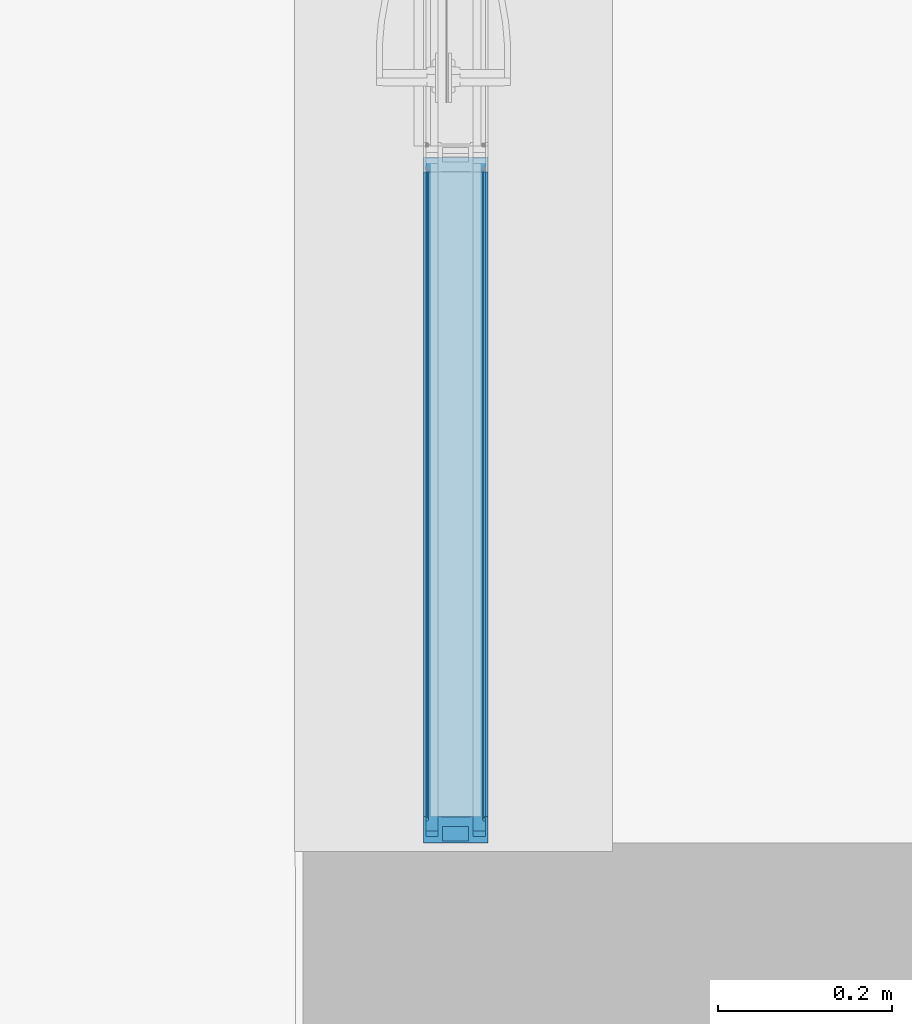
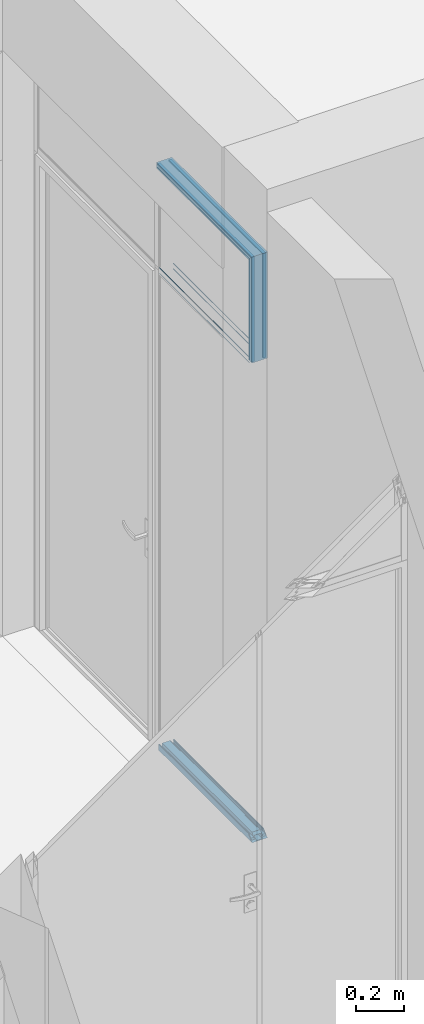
# One storey, part 71 of 89: 7 building element parts, 5 elements without a shape of their own.
"""IFC2X3 building model written with IfcOpenShell, lengths in millimetres."""

from ifc_helpers import new_model, entity, si_unit, converted_unit, derived_unit, money_unit, direction, frame, origin_with_axes, place, context, subcontext, project, spatial, faceted_brep, material, type_object, element, aggregate, save


model = new_model("IFC2X3")

# Units and contexts
model_context = context("Model", 3, precision=0.01, world=origin_with_axes(), true_north=direction((0.0, 1.0)))
body_context = subcontext(model_context, "Body", "Model", "MODEL_VIEW")
ifc_project = project(units=[si_unit("LENGTHUNIT", "METRE", prefix="MILLI"), si_unit("AREAUNIT", "SQUARE_METRE"), si_unit("VOLUMEUNIT", "CUBIC_METRE"), converted_unit("PLANEANGLEUNIT", "DEGREE", entity("IfcPlaneAngleMeasure", 0.0174532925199), si_unit("PLANEANGLEUNIT", "RADIAN"), dimensions=[0, 0, 0, 0, 0, 0, 0]), si_unit("SOLIDANGLEUNIT", "STERADIAN"), money_unit("EUR"), converted_unit("TIMEUNIT", "Year", entity("IfcTimeMeasure", 31556926.0), si_unit("TIMEUNIT", "SECOND"), dimensions=[0, 0, 1, 0, 0, 0, 0]), si_unit("MASSUNIT", "GRAM", prefix="KILO"), si_unit("THERMODYNAMICTEMPERATUREUNIT", "DEGREE_CELSIUS"), si_unit("LUMINOUSINTENSITYUNIT", "LUMEN"), si_unit("ENERGYUNIT", "JOULE", prefix="MEGA"), derived_unit("THERMALCONDUCTANCEUNIT", [(si_unit("POWERUNIT", "WATT"), 1), (si_unit("LENGTHUNIT", "METRE"), -1), (si_unit("THERMODYNAMICTEMPERATUREUNIT", "KELVIN"), -1)]), derived_unit("SPECIFICHEATCAPACITYUNIT", [(si_unit("ENERGYUNIT", "JOULE"), 1), (si_unit("MASSUNIT", "GRAM", prefix="KILO"), -1), (si_unit("THERMODYNAMICTEMPERATUREUNIT", "KELVIN"), -1)]), derived_unit("MASSDENSITYUNIT", [(si_unit("MASSUNIT", "GRAM", prefix="KILO"), 1), (si_unit("VOLUMEUNIT", "CUBIC_METRE"), -1)])], contexts=[model_context])

# Site, building, storey
site_placement = place(None, origin_with_axes())
site = spatial("IfcSite", under=ifc_project, at=site_placement, Name="Puškini 31, Narva", CompositionType="ELEMENT")
building_placement = place(site_placement, origin_with_axes())
building = spatial("IfcBuilding", under=site, at=building_placement, Name="Narva Riigigümnaasium", CompositionType="ELEMENT")
storey_placement = place(building_placement, frame((0.0, 0.0, -3300.0), z_axis=(0.0, 0.0, 1.0), x_axis=(1.0, 0.0, 0.0)))
storey = spatial("IfcBuildingStorey", under=building, at=storey_placement, Name="1.korrus -3.3", CompositionType="ELEMENT", Elevation=-3300.0)

# Curtain wall, members, building element parts
curtain_wall_type = type_object("IfcCurtainWallType", Name="Curtain Wall Type", PredefinedType="NOTDEFINED")
curtain_wall_placement = place(storey_placement, frame((47675.0000001, 242632.20006, -3.78005973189e-05), z_axis=(0.0, 0.0, 1.0), x_axis=(1.0, 0.0, 0.0)))
curtain_wall = element("IfcCurtainWall", 1, at=curtain_wall_placement, inside=storey, type_object=curtain_wall_type, Name="G-SKLF-10")
member_type_1 = type_object("IfcMemberType", Name="30 x 37", PredefinedType="MULLION")
member_1_placement = place(curtain_wall_placement, frame((0.0, -472.200003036, 2949.99999283), z_axis=(0.0, 1.0, 0.0), x_axis=(0.0, 0.0, -1.0)))
member_1 = element("IfcMember", 2, at=member_1_placement, type_object=member_type_1, Name="G-SKLF-10-raam", ObjectType="MULLION")
ifc_material_1 = material(Name="Klaasvill")
building_element_part_1_placement = place(member_1_placement, origin_with_axes())
building_element_part_1 = element("IfcBuildingElementPart", 3, at=building_element_part_1_placement, material=ifc_material_1, Name="Klaasvill", context=body_context, shape_type="Brep", body=[
    faceted_brep([(13.8499999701, 20.000000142, 13.8499999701), (13.8499999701, 20.000000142, 787.00000506), (7.49999990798, 20.000000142, 787.00000506), (7.49999990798, 20.000000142, 7.49999990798), (13.8499999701, 34.0161444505, 13.8499999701), (13.8499999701, 34.0161444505, 787.00000506), (7.49999990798, 34.0161444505, 787.00000506), (7.49999990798, 34.0161444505, 7.49999990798)], [[[0, 1, 2, 3]], [[4, 5, 1, 0]], [[2, 1, 5, 6]], [[3, 2, 6, 7]], [[3, 7, 4, 0]], [[7, 6, 5, 4]]]),
    faceted_brep([(25.004489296, 32.0307503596, 25.004489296), (25.004489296, 32.0307503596, 787.00000506), (24.987414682, 34.0161444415, 787.00000506), (24.987414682, 34.0161444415, 24.987414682), (25.742237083, 31.2930025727, 25.742237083), (25.742237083, 31.2930025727, 787.00000506), (26.7500193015, 31.0229681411, 787.00000506), (27.75780152, 31.2930025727, 787.00000506), (28.4955493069, 32.0307503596, 787.00000506), (28.7655837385, 33.0385325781, 787.00000506), (28.5126239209, 34.0161444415, 787.00000506), (28.5126239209, 34.0161444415, 28.5126239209), (28.7655837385, 33.0385325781, 28.7655837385), (28.4955493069, 32.0307503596, 28.4955493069), (27.75780152, 31.2930025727, 27.75780152), (26.7500193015, 31.0229681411, 26.7500193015)], [[[0, 1, 2, 3]], [[4, 5, 1, 0]], [[2, 1, 5, 6, 7, 8, 9, 10]], [[3, 2, 10, 11]], [[3, 11, 12, 13, 14, 15, 4, 0]], [[15, 6, 5, 4]], [[14, 7, 6, 15]], [[13, 8, 7, 14]], [[12, 9, 8, 13]], [[11, 10, 9, 12]]]),
    faceted_brep([(7.49999990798, -34.0161445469, 7.49999990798), (7.49999990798, -34.0161445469, 787.00000506), (7.49999990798, -19.9999997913, 787.00000506), (7.49999990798, -19.9999997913, 7.49999990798), (13.8499999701, -34.0161445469, 13.8499999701), (13.8499999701, -34.0161445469, 787.00000506), (13.8499999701, -19.9999997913, 787.00000506), (13.8499999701, -19.9999997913, 13.8499999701)], [[[0, 1, 2, 3]], [[4, 5, 1, 0]], [[2, 1, 5, 6]], [[3, 2, 6, 7]], [[3, 7, 4, 0]], [[7, 6, 5, 4]]]),
    faceted_brep([(24.987414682, -34.0161444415, 24.987414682), (24.987414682, -34.0161444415, 787.00000506), (25.004489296, -32.0307503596, 787.00000506), (25.004489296, -32.0307503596, 25.004489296), (28.5126239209, -34.0161444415, 28.5126239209), (28.5126239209, -34.0161444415, 787.00000506), (28.7655837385, -33.0385325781, 787.00000506), (28.4955493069, -32.0307503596, 787.00000506), (27.75780152, -31.2930025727, 787.00000506), (26.7500193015, -31.0229681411, 787.00000506), (25.742237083, -31.2930025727, 787.00000506), (25.742237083, -31.2930025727, 25.742237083), (26.7500193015, -31.0229681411, 26.7500193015), (27.75780152, -31.2930025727, 27.75780152), (28.4955493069, -32.0307503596, 28.4955493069), (28.7655837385, -33.0385325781, 28.7655837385)], [[[0, 1, 2, 3]], [[4, 5, 1, 0]], [[2, 1, 5, 6, 7, 8, 9, 10]], [[3, 2, 10, 11]], [[3, 11, 12, 13, 14, 15, 4, 0]], [[15, 6, 5, 4]], [[14, 7, 6, 15]], [[13, 8, 7, 14]], [[12, 9, 8, 13]], [[11, 10, 9, 12]]]),
])
ifc_material_2 = material(Name="Teras RAL7012")
building_element_part_2_placement = place(member_1_placement, origin_with_axes())
building_element_part_2 = element("IfcBuildingElementPart", 4, at=building_element_part_2_placement, material=ifc_material_2, Name="Teras RAL7012", context=body_context, shape_type="Brep", body=[
    faceted_brep([(29.5999996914, -17.0000000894, 29.5999996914), (29.5999996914, -17.0000000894, 787.00000506), (0.0, -17.0000000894, 787.00000506), (0.0, -17.0000000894, 0.0), (29.5999996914, 17.0000000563, 29.5999996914), (29.5999996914, 17.0000000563, 787.00000506), (0.0, 17.0000000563, 787.00000506), (1.9999999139, 15.0000001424, 787.00000506), (18.7999996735, 15.0000001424, 787.00000506), (18.7999996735, -15.0000001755, 787.00000506), (1.9999999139, -15.0000001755, 787.00000506), (0.0, 17.0000000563, 0.0), (1.9999999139, 15.0000001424, 1.9999999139), (1.9999999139, -15.0000001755, 1.9999999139), (18.7999996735, -15.0000001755, 18.7999996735), (18.7999996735, 15.0000001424, 18.7999996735)], [[[0, 1, 2, 3]], [[4, 5, 1, 0]], [[2, 1, 5, 6], [7, 8, 9, 10]], [[3, 2, 6, 11]], [[3, 11, 4, 0], [12, 13, 14, 15]], [[11, 6, 5, 4]], [[15, 8, 7, 12]], [[14, 9, 8, 15]], [[13, 10, 9, 14]], [[12, 7, 10, 13]]]),
    faceted_brep([(29.5999996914, 17.0000000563, 29.5999996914), (29.5999996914, 17.0000000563, 787.00000506), (0.0, 17.0, 787.00000506), (0.0, 17.0, 0.0), (30.0000193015, 17.0, 30.0000193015), (30.0000193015, 17.0, 787.00000506), (30.0000193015, 20.0, 787.00000506), (13.8499999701, 20.000000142, 787.00000506), (7.49999999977, 20.0, 787.00000506), (7.49999999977, 34.0161444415, 787.00000506), (13.8499999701, 34.0161444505, 787.00000506), (24.987414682, 34.0161444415, 787.00000506), (28.5126239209, 34.0161444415, 787.00000506), (30.0000193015, 34.0161444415, 787.00000506), (30.0000193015, 37.0, 787.00000506), (0.0, 37.0, 787.00000506), (0.0, 37.0, 0.0), (30.0000193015, 37.0, 30.0000193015), (30.0000193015, 34.0161444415, 30.0000193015), (28.5126239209, 34.0161444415, 28.5126239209), (24.987414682, 34.0161444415, 24.987414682), (13.8499999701, 34.0161444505, 13.8499999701), (7.49999999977, 34.0161444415, 7.49999999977), (7.49999999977, 20.0, 7.49999999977), (13.8499999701, 20.000000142, 13.8499999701), (30.0000193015, 20.0, 30.0000193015)], [[[0, 1, 2, 3]], [[4, 5, 1, 0]], [[2, 1, 5, 6, 7, 8, 9, 10, 11, 12, 13, 14, 15]], [[3, 2, 15, 16]], [[3, 16, 17, 18, 19, 20, 21, 22, 23, 24, 25, 4, 0]], [[25, 6, 5, 4]], [[24, 7, 6, 25]], [[23, 8, 7, 24]], [[22, 9, 8, 23]], [[21, 10, 9, 22]], [[20, 11, 10, 21]], [[19, 12, 11, 20]], [[18, 13, 12, 19]], [[17, 14, 13, 18]], [[16, 15, 14, 17]]]),
    faceted_brep([(0.0, -37.0, 0.0), (0.0, -37.0, 787.00000506), (0.0, -17.0, 787.00000506), (0.0, -17.0, 0.0), (30.0000193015, -37.0, 30.0000193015), (30.0000193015, -37.0, 787.00000506), (30.0000193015, -34.0161444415, 787.00000506), (28.5126239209, -34.0161444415, 787.00000506), (24.987414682, -34.0161444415, 787.00000506), (13.8499999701, -34.0161445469, 787.00000506), (7.49999999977, -34.0161444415, 787.00000506), (7.49999999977, -20.0, 787.00000506), (13.8499999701, -19.9999997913, 787.00000506), (30.0000193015, -20.0, 787.00000506), (30.0000193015, -17.0, 787.00000506), (29.5999996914, -17.0000000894, 787.00000506), (29.5999996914, -17.0000000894, 29.5999996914), (30.0000193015, -17.0, 30.0000193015), (30.0000193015, -20.0, 30.0000193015), (13.8499999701, -19.9999997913, 13.8499999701), (7.49999999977, -20.0, 7.49999999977), (7.49999999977, -34.0161444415, 7.49999999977), (13.8499999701, -34.0161445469, 13.8499999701), (24.987414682, -34.0161444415, 24.987414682), (28.5126239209, -34.0161444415, 28.5126239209), (30.0000193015, -34.0161444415, 30.0000193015)], [[[0, 1, 2, 3]], [[4, 5, 1, 0]], [[2, 1, 5, 6, 7, 8, 9, 10, 11, 12, 13, 14, 15]], [[3, 2, 15, 16]], [[3, 16, 17, 18, 19, 20, 21, 22, 23, 24, 25, 4, 0]], [[25, 6, 5, 4]], [[24, 7, 6, 25]], [[23, 8, 7, 24]], [[22, 9, 8, 23]], [[21, 10, 9, 22]], [[20, 11, 10, 21]], [[19, 12, 11, 20]], [[18, 13, 12, 19]], [[17, 14, 13, 18]], [[16, 15, 14, 17]]]),
])
aggregate(member_1, [building_element_part_1, building_element_part_2])
member_2_placement = place(curtain_wall_placement, frame((0.0, -472.200003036, 2415.00003228), z_axis=(0.0, 0.0, 1.0), x_axis=(0.0, 1.0, 0.0)))
member_2 = element("IfcMember", 5, at=member_2_placement, type_object=member_type_1, Name="G-SKLF-10-raam", ObjectType="MULLION")
building_element_part_3_placement = place(member_2_placement, origin_with_axes())
building_element_part_3 = element("IfcBuildingElementPart", 6, at=building_element_part_3_placement, material=ifc_material_1, Name="Klaasvill", context=body_context, shape_type="Brep", body=[
    faceted_brep([(7.49999990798, 20.000000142, 0.0), (13.8499999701, 20.000000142, 0.0), (13.8499999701, 20.000000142, 521.149960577), (7.49999990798, 20.000000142, 527.499960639), (7.49999990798, 34.0161444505, 0.0), (13.8499999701, 34.0161444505, 0.0), (13.8499999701, 34.0161444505, 521.149960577), (7.49999990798, 34.0161444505, 527.499960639)], [[[0, 1, 2, 3]], [[0, 4, 5, 1]], [[1, 5, 6, 2]], [[3, 2, 6, 7]], [[4, 0, 3, 7]], [[5, 4, 7, 6]]]),
    faceted_brep([(24.987414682, 34.0161444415, 0.0), (25.004489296, 32.0307503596, 0.0), (25.004489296, 32.0307503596, 509.995471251), (24.987414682, 34.0161444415, 510.012545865), (28.5126239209, 34.0161444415, 0.0), (28.7655837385, 33.0385325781, 0.0), (28.4955493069, 32.0307503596, 0.0), (27.75780152, 31.2930025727, 0.0), (26.7500193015, 31.0229681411, 0.0), (25.742237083, 31.2930025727, 0.0), (25.742237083, 31.2930025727, 509.257723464), (26.7500193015, 31.0229681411, 508.249941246), (27.75780152, 31.2930025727, 507.242159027), (28.4955493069, 32.0307503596, 506.50441124), (28.7655837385, 33.0385325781, 506.234376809), (28.5126239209, 34.0161444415, 506.487336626)], [[[0, 1, 2, 3]], [[0, 4, 5, 6, 7, 8, 9, 1]], [[1, 9, 10, 2]], [[3, 2, 10, 11, 12, 13, 14, 15]], [[4, 0, 3, 15]], [[5, 4, 15, 14]], [[6, 5, 14, 13]], [[7, 6, 13, 12]], [[8, 7, 12, 11]], [[9, 8, 11, 10]]]),
    faceted_brep([(7.49999990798, -19.9999997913, 0.0), (7.49999990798, -34.0161445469, 0.0), (7.49999990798, -34.0161445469, 527.499960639), (7.49999990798, -19.9999997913, 527.499960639), (13.8499999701, -19.9999997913, 0.0), (13.8499999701, -34.0161445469, 0.0), (13.8499999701, -34.0161445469, 521.149960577), (13.8499999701, -19.9999997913, 521.149960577)], [[[0, 1, 2, 3]], [[0, 4, 5, 1]], [[1, 5, 6, 2]], [[3, 2, 6, 7]], [[4, 0, 3, 7]], [[5, 4, 7, 6]]]),
    faceted_brep([(25.004489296, -32.0307503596, 0.0), (24.987414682, -34.0161444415, 0.0), (24.987414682, -34.0161444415, 510.012545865), (25.004489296, -32.0307503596, 509.995471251), (25.742237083, -31.2930025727, 0.0), (26.7500193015, -31.0229681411, 0.0), (27.75780152, -31.2930025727, 0.0), (28.4955493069, -32.0307503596, 0.0), (28.7655837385, -33.0385325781, 0.0), (28.5126239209, -34.0161444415, 0.0), (28.5126239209, -34.0161444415, 506.487336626), (28.7655837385, -33.0385325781, 506.234376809), (28.4955493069, -32.0307503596, 506.50441124), (27.75780152, -31.2930025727, 507.242159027), (26.7500193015, -31.0229681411, 508.249941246), (25.742237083, -31.2930025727, 509.257723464)], [[[0, 1, 2, 3]], [[0, 4, 5, 6, 7, 8, 9, 1]], [[1, 9, 10, 2]], [[3, 2, 10, 11, 12, 13, 14, 15]], [[4, 0, 3, 15]], [[5, 4, 15, 14]], [[6, 5, 14, 13]], [[7, 6, 13, 12]], [[8, 7, 12, 11]], [[9, 8, 11, 10]]]),
])
building_element_part_4_placement = place(member_2_placement, origin_with_axes())
building_element_part_4 = element("IfcBuildingElementPart", 7, at=building_element_part_4_placement, material=ifc_material_2, Name="Teras RAL7012", context=body_context, shape_type="Brep", body=[
    faceted_brep([(0.0, -17.0000000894, 0.0), (29.5999996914, -17.0000000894, 0.0), (29.5999996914, -17.0000000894, 505.399960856), (0.0, -17.0000000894, 534.999960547), (0.0, 17.0000000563, 0.0), (29.5999996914, 17.0000000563, 0.0), (1.9999999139, 15.0000001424, 0.0), (1.9999999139, -15.0000001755, 0.0), (18.7999996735, -15.0000001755, 0.0), (18.7999996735, 15.0000001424, 0.0), (29.5999996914, 17.0000000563, 505.399960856), (0.0, 17.0000000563, 534.999960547), (1.9999999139, 15.0000001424, 532.999960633), (18.7999996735, 15.0000001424, 516.199960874), (18.7999996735, -15.0000001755, 516.199960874), (1.9999999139, -15.0000001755, 532.999960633)], [[[0, 1, 2, 3]], [[0, 4, 5, 1], [6, 7, 8, 9]], [[1, 5, 10, 2]], [[3, 2, 10, 11], [12, 13, 14, 15]], [[4, 0, 3, 11]], [[5, 4, 11, 10]], [[7, 6, 12, 15]], [[8, 7, 15, 14]], [[9, 8, 14, 13]], [[6, 9, 13, 12]]]),
    faceted_brep([(0.0, 17.0, 0.0), (29.5999996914, 17.0000000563, 0.0), (29.5999996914, 17.0000000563, 505.399960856), (0.0, 17.0, 534.999960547), (0.0, 37.0, 0.0), (30.0000193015, 37.0, 0.0), (30.0000193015, 34.0161444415, 0.0), (28.5126239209, 34.0161444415, 0.0), (24.987414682, 34.0161444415, 0.0), (13.8499999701, 34.0161444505, 0.0), (7.49999999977, 34.0161444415, 0.0), (7.49999999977, 20.0, 0.0), (13.8499999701, 20.000000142, 0.0), (30.0000193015, 20.0, 0.0), (30.0000193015, 17.0, 0.0), (30.0000193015, 17.0, 504.999941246), (30.0000193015, 20.0, 504.999941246), (13.8499999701, 20.000000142, 521.149960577), (7.49999999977, 20.0, 527.499960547), (7.49999999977, 34.0161444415, 527.499960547), (13.8499999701, 34.0161444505, 521.149960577), (24.987414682, 34.0161444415, 510.012545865), (28.5126239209, 34.0161444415, 506.487336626), (30.0000193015, 34.0161444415, 504.999941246), (30.0000193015, 37.0, 504.999941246), (0.0, 37.0, 534.999960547)], [[[0, 1, 2, 3]], [[0, 4, 5, 6, 7, 8, 9, 10, 11, 12, 13, 14, 1]], [[1, 14, 15, 2]], [[3, 2, 15, 16, 17, 18, 19, 20, 21, 22, 23, 24, 25]], [[4, 0, 3, 25]], [[5, 4, 25, 24]], [[6, 5, 24, 23]], [[7, 6, 23, 22]], [[8, 7, 22, 21]], [[9, 8, 21, 20]], [[10, 9, 20, 19]], [[11, 10, 19, 18]], [[12, 11, 18, 17]], [[13, 12, 17, 16]], [[14, 13, 16, 15]]]),
    faceted_brep([(0.0, -17.0, 0.0), (0.0, -37.0, 0.0), (0.0, -37.0, 534.999960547), (0.0, -17.0, 534.999960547), (29.5999996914, -17.0000000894, 0.0), (30.0000193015, -17.0, 0.0), (30.0000193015, -20.0, 0.0), (13.8499999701, -19.9999997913, 0.0), (7.49999999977, -20.0, 0.0), (7.49999999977, -34.0161444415, 0.0), (13.8499999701, -34.0161445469, 0.0), (24.987414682, -34.0161444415, 0.0), (28.5126239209, -34.0161444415, 0.0), (30.0000193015, -34.0161444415, 0.0), (30.0000193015, -37.0, 0.0), (30.0000193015, -37.0, 504.999941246), (30.0000193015, -34.0161444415, 504.999941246), (28.5126239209, -34.0161444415, 506.487336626), (24.987414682, -34.0161444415, 510.012545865), (13.8499999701, -34.0161445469, 521.149960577), (7.49999999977, -34.0161444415, 527.499960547), (7.49999999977, -20.0, 527.499960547), (13.8499999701, -19.9999997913, 521.149960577), (30.0000193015, -20.0, 504.999941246), (30.0000193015, -17.0, 504.999941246), (29.5999996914, -17.0000000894, 505.399960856)], [[[0, 1, 2, 3]], [[0, 4, 5, 6, 7, 8, 9, 10, 11, 12, 13, 14, 1]], [[1, 14, 15, 2]], [[3, 2, 15, 16, 17, 18, 19, 20, 21, 22, 23, 24, 25]], [[4, 0, 3, 25]], [[5, 4, 25, 24]], [[6, 5, 24, 23]], [[7, 6, 23, 22]], [[8, 7, 22, 21]], [[9, 8, 21, 20]], [[10, 9, 20, 19]], [[11, 10, 19, 18]], [[12, 11, 18, 17]], [[13, 12, 17, 16]], [[14, 13, 16, 15]]]),
])
aggregate(member_2, [building_element_part_3, building_element_part_4])
member_3_placement = place(curtain_wall_placement, frame((0.0, 297.799996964, 0.0), z_axis=(0.0, -1.0, 0.0), x_axis=(0.0, 0.0, 1.0)))
member_3 = element("IfcMember", 8, at=member_3_placement, type_object=member_type_1, Name="G-SKLF-10-raam", ObjectType="MULLION")
building_element_part_5_placement = place(member_3_placement, origin_with_axes())
building_element_part_5 = element("IfcBuildingElementPart", 9, at=building_element_part_5_placement, material=ifc_material_1, Name="Klaasvill", context=body_context, shape_type="Brep", body=[
    faceted_brep([(7.49999990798, 20.000000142, 0.0), (13.8499999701, 20.000000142, 0.0), (13.8499999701, 20.000000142, 756.15000003), (7.49999990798, 20.000000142, 762.500000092), (7.49999990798, 34.0161444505, 0.0), (13.8499999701, 34.0161444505, 0.0), (13.8499999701, 34.0161444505, 756.15000003), (7.49999990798, 34.0161444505, 762.500000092)], [[[0, 1, 2, 3]], [[0, 4, 5, 1]], [[1, 5, 6, 2]], [[3, 2, 6, 7]], [[4, 0, 3, 7]], [[5, 4, 7, 6]]]),
    faceted_brep([(24.987414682, 34.0161444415, 0.0), (25.004489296, 32.0307503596, 0.0), (25.004489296, 32.0307503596, 744.995510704), (24.987414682, 34.0161444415, 745.012585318), (28.5126239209, 34.0161444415, 0.0), (28.7655837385, 33.0385325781, 0.0), (28.4955493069, 32.0307503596, 0.0), (27.75780152, 31.2930025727, 0.0), (26.7500193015, 31.0229681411, 0.0), (25.742237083, 31.2930025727, 0.0), (25.742237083, 31.2930025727, 744.257762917), (26.7500193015, 31.0229681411, 743.249980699), (27.75780152, 31.2930025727, 742.24219848), (28.4955493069, 32.0307503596, 741.504450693), (28.7655837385, 33.0385325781, 741.234416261), (28.5126239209, 34.0161444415, 741.487376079)], [[[0, 1, 2, 3]], [[0, 4, 5, 6, 7, 8, 9, 1]], [[1, 9, 10, 2]], [[3, 2, 10, 11, 12, 13, 14, 15]], [[4, 0, 3, 15]], [[5, 4, 15, 14]], [[6, 5, 14, 13]], [[7, 6, 13, 12]], [[8, 7, 12, 11]], [[9, 8, 11, 10]]]),
    faceted_brep([(7.49999990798, -19.9999997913, 0.0), (7.49999990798, -34.0161445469, 0.0), (7.49999990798, -34.0161445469, 762.500000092), (7.49999990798, -19.9999997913, 762.500000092), (13.8499999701, -19.9999997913, 0.0), (13.8499999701, -34.0161445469, 0.0), (13.8499999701, -34.0161445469, 756.15000003), (13.8499999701, -19.9999997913, 756.15000003)], [[[0, 1, 2, 3]], [[0, 4, 5, 1]], [[1, 5, 6, 2]], [[3, 2, 6, 7]], [[4, 0, 3, 7]], [[5, 4, 7, 6]]]),
    faceted_brep([(25.004489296, -32.0307503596, 0.0), (24.987414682, -34.0161444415, 0.0), (24.987414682, -34.0161444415, 745.012585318), (25.004489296, -32.0307503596, 744.995510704), (25.742237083, -31.2930025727, 0.0), (26.7500193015, -31.0229681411, 0.0), (27.75780152, -31.2930025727, 0.0), (28.4955493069, -32.0307503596, 0.0), (28.7655837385, -33.0385325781, 0.0), (28.5126239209, -34.0161444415, 0.0), (28.5126239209, -34.0161444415, 741.487376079), (28.7655837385, -33.0385325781, 741.234416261), (28.4955493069, -32.0307503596, 741.504450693), (27.75780152, -31.2930025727, 742.24219848), (26.7500193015, -31.0229681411, 743.249980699), (25.742237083, -31.2930025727, 744.257762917)], [[[0, 1, 2, 3]], [[0, 4, 5, 6, 7, 8, 9, 1]], [[1, 9, 10, 2]], [[3, 2, 10, 11, 12, 13, 14, 15]], [[4, 0, 3, 15]], [[5, 4, 15, 14]], [[6, 5, 14, 13]], [[7, 6, 13, 12]], [[8, 7, 12, 11]], [[9, 8, 11, 10]]]),
])
building_element_part_6_placement = place(member_3_placement, origin_with_axes())
building_element_part_6 = element("IfcBuildingElementPart", 10, at=building_element_part_6_placement, material=ifc_material_2, Name="Teras RAL7012", context=body_context, shape_type="Brep", body=[
    faceted_brep([(0.0, -17.0000000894, 0.0), (29.5999996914, -17.0000000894, 0.0), (29.5999996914, -17.0000000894, 740.400000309), (0.0, -17.0000000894, 770.0), (0.0, 17.0000000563, 0.0), (29.5999996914, 17.0000000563, 0.0), (1.9999999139, 15.0000001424, 0.0), (1.9999999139, -15.0000001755, 0.0), (18.7999996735, -15.0000001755, 0.0), (18.7999996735, 15.0000001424, 0.0), (29.5999996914, 17.0000000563, 740.400000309), (0.0, 17.0000000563, 770.0), (1.9999999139, 15.0000001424, 768.000000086), (18.7999996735, 15.0000001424, 751.200000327), (18.7999996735, -15.0000001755, 751.200000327), (1.9999999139, -15.0000001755, 768.000000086)], [[[0, 1, 2, 3]], [[0, 4, 5, 1], [6, 7, 8, 9]], [[1, 5, 10, 2]], [[3, 2, 10, 11], [12, 13, 14, 15]], [[4, 0, 3, 11]], [[5, 4, 11, 10]], [[7, 6, 12, 15]], [[8, 7, 15, 14]], [[9, 8, 14, 13]], [[6, 9, 13, 12]]]),
    faceted_brep([(0.0, 17.0, 0.0), (29.5999996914, 17.0000000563, 0.0), (29.5999996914, 17.0000000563, 740.400000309), (0.0, 17.0, 770.0), (0.0, 37.0, 0.0), (30.0000193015, 37.0, 0.0), (30.0000193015, 34.0161444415, 0.0), (28.5126239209, 34.0161444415, 0.0), (24.987414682, 34.0161444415, 0.0), (13.8499999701, 34.0161444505, 0.0), (7.49999999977, 34.0161444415, 0.0), (7.49999999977, 20.0, 0.0), (13.8499999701, 20.000000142, 0.0), (30.0000193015, 20.0, 0.0), (30.0000193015, 17.0, 0.0), (30.0000193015, 17.0, 739.999980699), (30.0000193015, 20.0, 739.999980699), (13.8499999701, 20.000000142, 756.15000003), (7.49999999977, 20.0, 762.5), (7.49999999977, 34.0161444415, 762.5), (13.8499999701, 34.0161444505, 756.15000003), (24.987414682, 34.0161444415, 745.012585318), (28.5126239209, 34.0161444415, 741.487376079), (30.0000193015, 34.0161444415, 739.999980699), (30.0000193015, 37.0, 739.999980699), (0.0, 37.0, 770.0)], [[[0, 1, 2, 3]], [[0, 4, 5, 6, 7, 8, 9, 10, 11, 12, 13, 14, 1]], [[1, 14, 15, 2]], [[3, 2, 15, 16, 17, 18, 19, 20, 21, 22, 23, 24, 25]], [[4, 0, 3, 25]], [[5, 4, 25, 24]], [[6, 5, 24, 23]], [[7, 6, 23, 22]], [[8, 7, 22, 21]], [[9, 8, 21, 20]], [[10, 9, 20, 19]], [[11, 10, 19, 18]], [[12, 11, 18, 17]], [[13, 12, 17, 16]], [[14, 13, 16, 15]]]),
    faceted_brep([(0.0, -17.0, 0.0), (0.0, -37.0, 0.0), (0.0, -37.0, 770.0), (0.0, -17.0, 770.0), (29.5999996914, -17.0000000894, 0.0), (30.0000193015, -17.0, 0.0), (30.0000193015, -20.0, 0.0), (13.8499999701, -19.9999997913, 0.0), (7.49999999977, -20.0, 0.0), (7.49999999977, -34.0161444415, 0.0), (13.8499999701, -34.0161445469, 0.0), (24.987414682, -34.0161444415, 0.0), (28.5126239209, -34.0161444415, 0.0), (30.0000193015, -34.0161444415, 0.0), (30.0000193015, -37.0, 0.0), (30.0000193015, -37.0, 739.999980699), (30.0000193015, -34.0161444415, 739.999980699), (28.5126239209, -34.0161444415, 741.487376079), (24.987414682, -34.0161444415, 745.012585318), (13.8499999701, -34.0161445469, 756.15000003), (7.49999999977, -34.0161444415, 762.5), (7.49999999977, -20.0, 762.5), (13.8499999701, -19.9999997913, 756.15000003), (30.0000193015, -20.0, 739.999980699), (30.0000193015, -17.0, 739.999980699), (29.5999996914, -17.0000000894, 740.400000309)], [[[0, 1, 2, 3]], [[0, 4, 5, 6, 7, 8, 9, 10, 11, 12, 13, 14, 1]], [[1, 14, 15, 2]], [[3, 2, 15, 16, 17, 18, 19, 20, 21, 22, 23, 24, 25]], [[4, 0, 3, 25]], [[5, 4, 25, 24]], [[6, 5, 24, 23]], [[7, 6, 23, 22]], [[8, 7, 22, 21]], [[9, 8, 21, 20]], [[10, 9, 20, 19]], [[11, 10, 19, 18]], [[12, 11, 18, 17]], [[13, 12, 17, 16]], [[14, 13, 16, 15]]]),
])
aggregate(member_3, [building_element_part_5, building_element_part_6])
member_type_2 = type_object("IfcMemberType", Name="34 x 37", PredefinedType="MULLION")
member_4_placement = place(curtain_wall_placement, frame((0.0, 297.799972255, 2413.00003494), z_axis=(0.0, -1.0, -3.71718252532e-09), x_axis=(0.0, -3.71718252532e-09, 1.0)))
member_4 = element("IfcMember", 11, at=member_4_placement, type_object=member_type_2, Name="G-SKLF-10-raam", ObjectType="MULLION")
aggregate(curtain_wall, [member_1, member_2, member_3, member_4])
building_element_part_7_placement = place(member_4_placement, origin_with_axes())
building_element_part_7 = element("IfcBuildingElementPart", 12, at=building_element_part_7_placement, material=ifc_material_1, Name="Klaasvill", context=body_context, shape_type="Brep", body=[
    faceted_brep([(11.987414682, 34.0161444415, 0.0), (12.004489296, 32.0307503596, 0.0), (12.004489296, 32.0307503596, 739.999956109), (11.987414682, 34.0161444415, 739.999956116), (15.5126239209, 34.0161444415, 0.0), (15.7655837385, 33.0385325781, 0.0), (15.4955493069, 32.0307503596, 0.0), (14.75780152, 31.2930025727, 0.0), (13.7500193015, 31.0229681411, 0.0), (12.742237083, 31.2930025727, 0.0), (12.742237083, 31.2930025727, 739.999956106), (13.7500193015, 31.0229681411, 739.999956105), (14.75780152, 31.2930025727, 739.999956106), (15.4955493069, 32.0307503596, 739.999956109), (15.7655837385, 33.0385325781, 739.999956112), (15.5126239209, 34.0161444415, 739.999956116)], [[[0, 1, 2, 3]], [[0, 4, 5, 6, 7, 8, 9, 1]], [[1, 9, 10, 2]], [[3, 2, 10, 11, 12, 13, 14, 15]], [[4, 0, 3, 15]], [[5, 4, 15, 14]], [[6, 5, 14, 13]], [[7, 6, 13, 12]], [[8, 7, 12, 11]], [[9, 8, 11, 10]]]),
    faceted_brep([(15.5126239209, -34.0161444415, 0.0), (15.4955493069, -32.0307503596, 0.0), (15.4955493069, -32.0307503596, 739.999955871), (15.5126239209, -34.0161444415, 739.999955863), (11.987414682, -34.0161444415, 0.0), (11.7344548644, -33.0385325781, 0.0), (12.004489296, -32.0307503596, 0.0), (12.742237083, -31.2930025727, 0.0), (13.7500193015, -31.0229681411, 0.0), (14.75780152, -31.2930025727, 0.0), (14.75780152, -31.2930025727, 739.999955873), (13.7500193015, -31.0229681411, 739.999955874), (12.742237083, -31.2930025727, 739.999955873), (12.004489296, -32.0307503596, 739.999955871), (11.7344548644, -33.0385325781, 739.999955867), (11.987414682, -34.0161444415, 739.999955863)], [[[0, 1, 2, 3]], [[0, 4, 5, 6, 7, 8, 9, 1]], [[1, 9, 10, 2]], [[3, 2, 10, 11, 12, 13, 14, 15]], [[4, 0, 3, 15]], [[5, 4, 15, 14]], [[6, 5, 14, 13]], [[7, 6, 13, 12]], [[8, 7, 12, 11]], [[9, 8, 11, 10]]]),
    faceted_brep([(-11.987414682, 34.0161444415, 0.0), (-15.7655837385, 33.0385325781, 0.0), (-15.7655837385, 33.0385325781, 739.999956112), (-11.987414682, 34.0161444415, 739.999956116), (-11.7344548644, 33.0385325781, 0.0), (-12.004489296, 32.0307503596, 0.0), (-12.742237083, 31.2930025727, 0.0), (-13.7500193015, 31.0229681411, 0.0), (-14.75780152, 31.2930025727, 0.0), (-15.4955493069, 32.0307503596, 0.0), (-15.4955493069, 32.0307503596, 739.999956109), (-14.75780152, 31.2930025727, 739.999956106), (-13.7500193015, 31.0229681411, 739.999956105), (-12.742237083, 31.2930025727, 739.999956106), (-12.004489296, 32.0307503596, 739.999956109), (-11.7344548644, 33.0385325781, 739.999956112)], [[[0, 1, 2, 3]], [[0, 4, 5, 6, 7, 8, 9, 1]], [[1, 9, 10, 2]], [[3, 2, 10, 11, 12, 13, 14, 15]], [[4, 0, 3, 15]], [[5, 4, 15, 14]], [[6, 5, 14, 13]], [[7, 6, 13, 12]], [[8, 7, 12, 11]], [[9, 8, 11, 10]]]),
    faceted_brep([(-15.4955493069, -32.0307503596, 0.0), (-15.5126239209, -34.0161444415, 0.0), (-15.5126239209, -34.0161444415, 739.999955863), (-15.4955493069, -32.0307503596, 739.999955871), (-14.75780152, -31.2930025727, 0.0), (-13.7500193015, -31.0229681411, 0.0), (-12.742237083, -31.2930025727, 0.0), (-12.004489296, -32.0307503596, 0.0), (-11.7344548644, -33.0385325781, 0.0), (-11.987414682, -34.0161444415, 0.0), (-11.987414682, -34.0161444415, 739.999955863), (-11.7344548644, -33.0385325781, 739.999955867), (-12.004489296, -32.0307503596, 739.999955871), (-12.742237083, -31.2930025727, 739.999955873), (-13.7500193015, -31.0229681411, 739.999955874), (-14.75780152, -31.2930025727, 739.999955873)], [[[0, 1, 2, 3]], [[0, 4, 5, 6, 7, 8, 9, 1]], [[1, 9, 10, 2]], [[3, 2, 10, 11, 12, 13, 14, 15]], [[4, 0, 3, 15]], [[5, 4, 15, 14]], [[6, 5, 14, 13]], [[7, 6, 13, 12]], [[8, 7, 12, 11]], [[9, 8, 11, 10]]]),
])
aggregate(member_4, [building_element_part_7])

save(model, "model.ifc")
